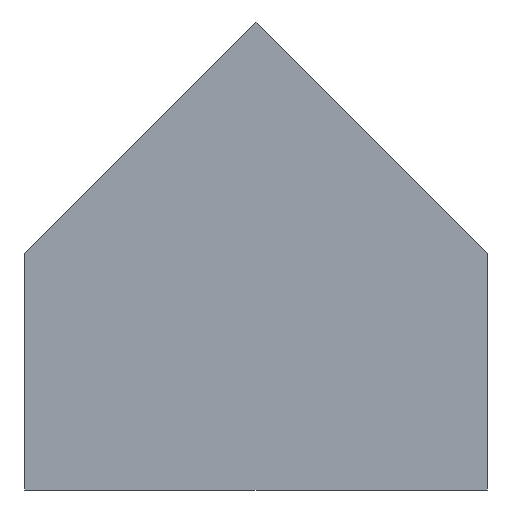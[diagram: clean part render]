
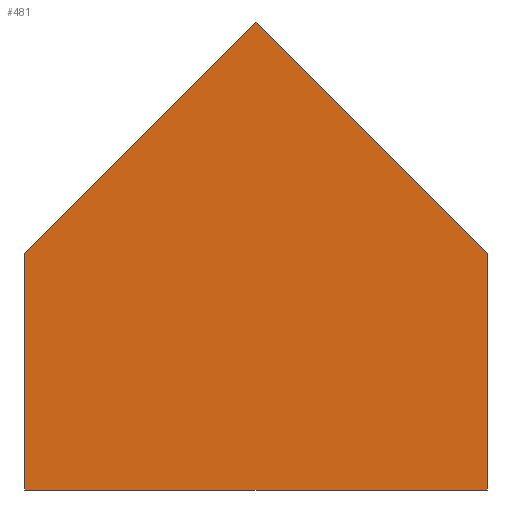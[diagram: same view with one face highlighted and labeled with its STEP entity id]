
A CAD part, left-side view. The second image highlights one B-rep face of the part: STEP entity #481.
In plain terms, the highlighted planar face has unit normal (-1, 0, 0).
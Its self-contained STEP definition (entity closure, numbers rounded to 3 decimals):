
#24 = VERTEX_POINT('',#25);
#25 = CARTESIAN_POINT('',(-98.3,9.2,14.2));
#32 = PLANE('',#33);
#33 = AXIS2_PLACEMENT_3D('',#34,#35,#36);
#34 = CARTESIAN_POINT('',(-97.1,9.2,14.2));
#35 = DIRECTION('',(-0.,-0.,1.));
#36 = DIRECTION('',(0.,-1.,0.));
#44 = PLANE('',#45);
#45 = AXIS2_PLACEMENT_3D('',#46,#47,#48);
#46 = CARTESIAN_POINT('',(-97.1,9.2,28.3));
#47 = DIRECTION('',(-0.,1.,-0.));
#48 = DIRECTION('',(0.,0.,1.));
#56 = EDGE_CURVE('',#24,#57,#59,.T.);
#57 = VERTEX_POINT('',#58);
#58 = CARTESIAN_POINT('',(-98.3,36.8,14.2));
#59 = SURFACE_CURVE('',#60,(#64,#71),.PCURVE_S1.);
#60 = LINE('',#61,#62);
#61 = CARTESIAN_POINT('',(-98.3,9.2,14.2));
#62 = VECTOR('',#63,1.);
#63 = DIRECTION('',(-0.,1.,-0.));
#64 = PCURVE('',#32,#65);
#65 = DEFINITIONAL_REPRESENTATION('',(#66),#70);
#66 = LINE('',#67,#68);
#67 = CARTESIAN_POINT('',(-0.,-1.2));
#68 = VECTOR('',#69,1.);
#69 = DIRECTION('',(-1.,0.));
#70 = ( GEOMETRIC_REPRESENTATION_CONTEXT(2) 
PARAMETRIC_REPRESENTATION_CONTEXT() REPRESENTATION_CONTEXT('2D SPACE',''
  ) );
#71 = PCURVE('',#72,#77);
#72 = PLANE('',#73);
#73 = AXIS2_PLACEMENT_3D('',#74,#75,#76);
#74 = CARTESIAN_POINT('',(-98.3,23.,24.94));
#75 = DIRECTION('',(-1.,-0.,-0.));
#76 = DIRECTION('',(0.,0.,-1.));
#77 = DEFINITIONAL_REPRESENTATION('',(#78),#82);
#78 = LINE('',#79,#80);
#79 = CARTESIAN_POINT('',(10.74,13.8));
#80 = VECTOR('',#81,1.);
#81 = DIRECTION('',(-0.,-1.));
#82 = ( GEOMETRIC_REPRESENTATION_CONTEXT(2) 
PARAMETRIC_REPRESENTATION_CONTEXT() REPRESENTATION_CONTEXT('2D SPACE',''
  ) );
#100 = PLANE('',#101);
#101 = AXIS2_PLACEMENT_3D('',#102,#103,#104);
#102 = CARTESIAN_POINT('',(-97.1,36.8,14.2));
#103 = DIRECTION('',(-0.,-1.,-0.));
#104 = DIRECTION('',(0.,0.,-1.));
#144 = VERTEX_POINT('',#145);
#145 = CARTESIAN_POINT('',(-98.3,9.2,28.3));
#159 = PLANE('',#160);
#160 = AXIS2_PLACEMENT_3D('',#161,#162,#163);
#161 = CARTESIAN_POINT('',(-97.1,23.,42.1));
#162 = DIRECTION('',(-0.,0.707,-0.707));
#163 = DIRECTION('',(0.,0.707,0.707));
#171 = EDGE_CURVE('',#144,#24,#172,.T.);
#172 = SURFACE_CURVE('',#173,(#177,#184),.PCURVE_S1.);
#173 = LINE('',#174,#175);
#174 = CARTESIAN_POINT('',(-98.3,9.2,28.3));
#175 = VECTOR('',#176,1.);
#176 = DIRECTION('',(-0.,-0.,-1.));
#177 = PCURVE('',#44,#178);
#178 = DEFINITIONAL_REPRESENTATION('',(#179),#183);
#179 = LINE('',#180,#181);
#180 = CARTESIAN_POINT('',(-0.,-1.2));
#181 = VECTOR('',#182,1.);
#182 = DIRECTION('',(-1.,0.));
#183 = ( GEOMETRIC_REPRESENTATION_CONTEXT(2) 
PARAMETRIC_REPRESENTATION_CONTEXT() REPRESENTATION_CONTEXT('2D SPACE',''
  ) );
#184 = PCURVE('',#72,#185);
#185 = DEFINITIONAL_REPRESENTATION('',(#186),#190);
#186 = LINE('',#187,#188);
#187 = CARTESIAN_POINT('',(-3.36,13.8));
#188 = VECTOR('',#189,1.);
#189 = DIRECTION('',(1.,-0.));
#190 = ( GEOMETRIC_REPRESENTATION_CONTEXT(2) 
PARAMETRIC_REPRESENTATION_CONTEXT() REPRESENTATION_CONTEXT('2D SPACE',''
  ) );
#218 = EDGE_CURVE('',#57,#219,#221,.T.);
#219 = VERTEX_POINT('',#220);
#220 = CARTESIAN_POINT('',(-98.3,36.8,28.3));
#221 = SURFACE_CURVE('',#222,(#226,#233),.PCURVE_S1.);
#222 = LINE('',#223,#224);
#223 = CARTESIAN_POINT('',(-98.3,36.8,14.2));
#224 = VECTOR('',#225,1.);
#225 = DIRECTION('',(-0.,-0.,1.));
#226 = PCURVE('',#100,#227);
#227 = DEFINITIONAL_REPRESENTATION('',(#228),#232);
#228 = LINE('',#229,#230);
#229 = CARTESIAN_POINT('',(-0.,-1.2));
#230 = VECTOR('',#231,1.);
#231 = DIRECTION('',(-1.,0.));
#232 = ( GEOMETRIC_REPRESENTATION_CONTEXT(2) 
PARAMETRIC_REPRESENTATION_CONTEXT() REPRESENTATION_CONTEXT('2D SPACE',''
  ) );
#233 = PCURVE('',#72,#234);
#234 = DEFINITIONAL_REPRESENTATION('',(#235),#239);
#235 = LINE('',#236,#237);
#236 = CARTESIAN_POINT('',(10.74,-13.8));
#237 = VECTOR('',#238,1.);
#238 = DIRECTION('',(-1.,-0.));
#239 = ( GEOMETRIC_REPRESENTATION_CONTEXT(2) 
PARAMETRIC_REPRESENTATION_CONTEXT() REPRESENTATION_CONTEXT('2D SPACE',''
  ) );
#257 = PLANE('',#258);
#258 = AXIS2_PLACEMENT_3D('',#259,#260,#261);
#259 = CARTESIAN_POINT('',(-97.1,36.8,28.3));
#260 = DIRECTION('',(-0.,-0.707,-0.707));
#261 = DIRECTION('',(0.,0.707,-0.707));
#481 = ADVANCED_FACE('',(#482),#72,.T.);
#482 = FACE_BOUND('',#483,.F.);
#483 = EDGE_LOOP('',(#484,#485,#486,#509,#530));
#484 = ORIENTED_EDGE('',*,*,#56,.T.);
#485 = ORIENTED_EDGE('',*,*,#218,.T.);
#486 = ORIENTED_EDGE('',*,*,#487,.T.);
#487 = EDGE_CURVE('',#219,#488,#490,.T.);
#488 = VERTEX_POINT('',#489);
#489 = CARTESIAN_POINT('',(-98.3,23.,42.1));
#490 = SURFACE_CURVE('',#491,(#495,#502),.PCURVE_S1.);
#491 = LINE('',#492,#493);
#492 = CARTESIAN_POINT('',(-98.3,36.8,28.3));
#493 = VECTOR('',#494,1.);
#494 = DIRECTION('',(-0.,-0.707,0.707));
#495 = PCURVE('',#72,#496);
#496 = DEFINITIONAL_REPRESENTATION('',(#497),#501);
#497 = LINE('',#498,#499);
#498 = CARTESIAN_POINT('',(-3.36,-13.8));
#499 = VECTOR('',#500,1.);
#500 = DIRECTION('',(-0.707,0.707));
#501 = ( GEOMETRIC_REPRESENTATION_CONTEXT(2) 
PARAMETRIC_REPRESENTATION_CONTEXT() REPRESENTATION_CONTEXT('2D SPACE',''
  ) );
#502 = PCURVE('',#257,#503);
#503 = DEFINITIONAL_REPRESENTATION('',(#504),#508);
#504 = LINE('',#505,#506);
#505 = CARTESIAN_POINT('',(-0.,-1.2));
#506 = VECTOR('',#507,1.);
#507 = DIRECTION('',(-1.,0.));
#508 = ( GEOMETRIC_REPRESENTATION_CONTEXT(2) 
PARAMETRIC_REPRESENTATION_CONTEXT() REPRESENTATION_CONTEXT('2D SPACE',''
  ) );
#509 = ORIENTED_EDGE('',*,*,#510,.T.);
#510 = EDGE_CURVE('',#488,#144,#511,.T.);
#511 = SURFACE_CURVE('',#512,(#516,#523),.PCURVE_S1.);
#512 = LINE('',#513,#514);
#513 = CARTESIAN_POINT('',(-98.3,23.,42.1));
#514 = VECTOR('',#515,1.);
#515 = DIRECTION('',(-0.,-0.707,-0.707));
#516 = PCURVE('',#72,#517);
#517 = DEFINITIONAL_REPRESENTATION('',(#518),#522);
#518 = LINE('',#519,#520);
#519 = CARTESIAN_POINT('',(-17.16,0.));
#520 = VECTOR('',#521,1.);
#521 = DIRECTION('',(0.707,0.707));
#522 = ( GEOMETRIC_REPRESENTATION_CONTEXT(2) 
PARAMETRIC_REPRESENTATION_CONTEXT() REPRESENTATION_CONTEXT('2D SPACE',''
  ) );
#523 = PCURVE('',#159,#524);
#524 = DEFINITIONAL_REPRESENTATION('',(#525),#529);
#525 = LINE('',#526,#527);
#526 = CARTESIAN_POINT('',(-0.,-1.2));
#527 = VECTOR('',#528,1.);
#528 = DIRECTION('',(-1.,0.));
#529 = ( GEOMETRIC_REPRESENTATION_CONTEXT(2) 
PARAMETRIC_REPRESENTATION_CONTEXT() REPRESENTATION_CONTEXT('2D SPACE',''
  ) );
#530 = ORIENTED_EDGE('',*,*,#171,.T.);
